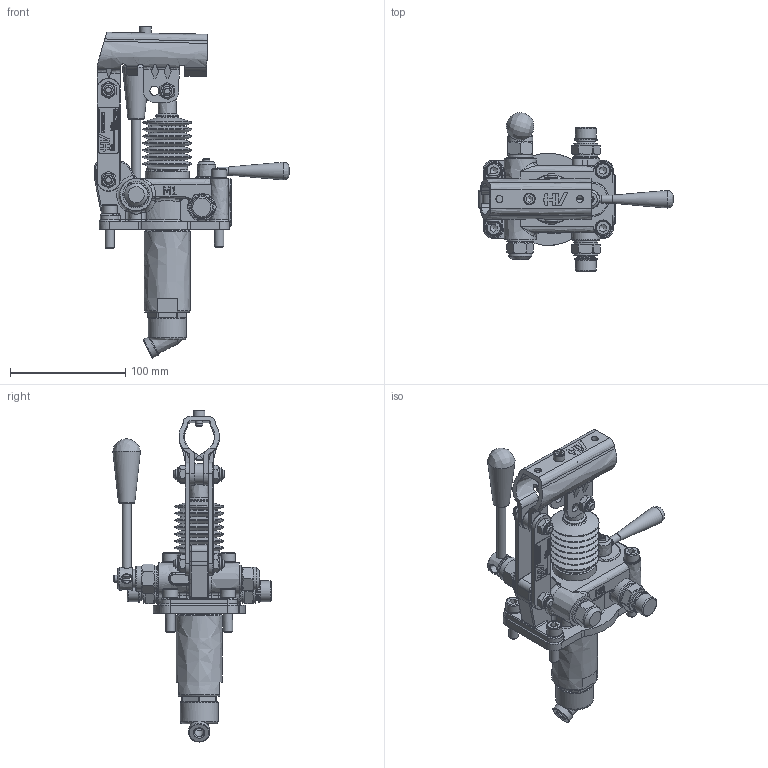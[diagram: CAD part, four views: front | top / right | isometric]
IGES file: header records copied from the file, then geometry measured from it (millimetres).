
Global section: file name: No Iges File Name specified; native system: Autodesk Inventor 2013; preprocessor: AutoDesk Inventor Iges Exporter R2013; author: christian.scardovi; date: 20240304.102657; units: millimetre
Bounding box: 169 x 137.49 x 288.31 mm (x, y, z)
Volume: 527924.9 mm3; surface area: 144834.9 mm2
Topology: 3 solids, 3 shells, 1617 faces, 4099 edges, 2601 vertices
Faces by surface type: bspline 1617
